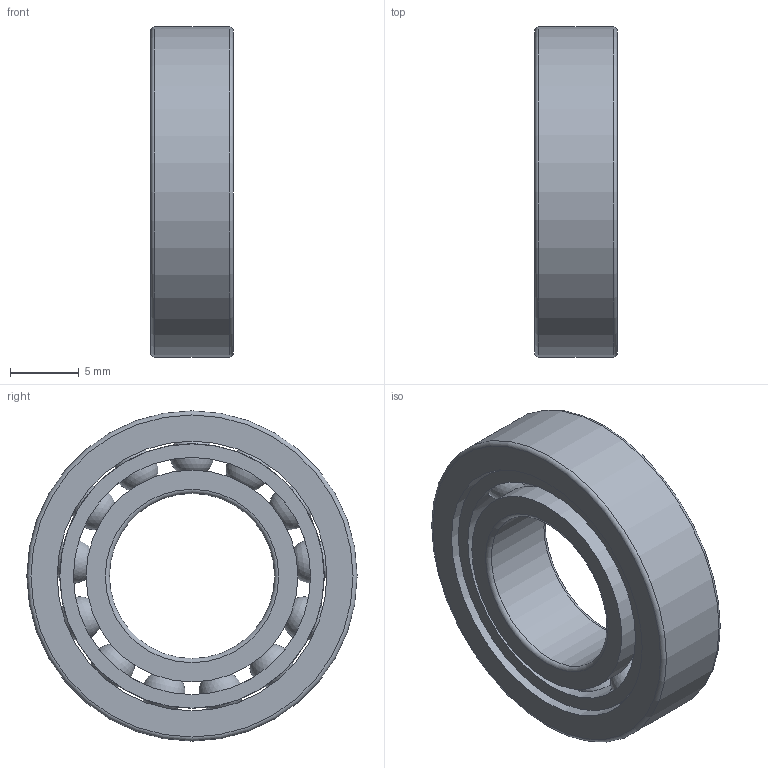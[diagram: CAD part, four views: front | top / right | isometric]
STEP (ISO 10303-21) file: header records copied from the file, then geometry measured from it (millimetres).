
FILE_DESCRIPTION(/* description */ (''),/* implementation_level */ '2;1');
FILE_NAME(/* name */ 'S_61901_TA.step',/* time_stamp */ '2013-03-06T14:46:44+01:00',/* author */ ('Marian'),/* organization */ ('GMN'),/* preprocessor_version */ 'ST-DEVELOPER v11',/* originating_system */ 'SIEMENS UGS NX 6.0',/* authorisation */ '');
FILE_SCHEMA (('CONFIG_CONTROL_DESIGN'));
Length unit declared in the file: millimetre
Products named in the file (1): S_61901_TA
Bounding box: 6 x 24 x 24 mm (x, y, z)
Volume: 1558.7 mm3; surface area: 2755.3 mm2
Topology: 16 solids, 16 shells, 46 faces, 112 edges, 72 vertices
Faces by surface type: cylinder 20, sphere 13, torus 6, plane 6, cone 1
Full cylindrical faces by diameter (mm): 3.375 x13, 12 x1, 15.4 x2, 17.235 x1, 19.2 x1, 19.6 x1, 24 x1
Entity records: 2500 total; most frequent: CARTESIAN_POINT 1634, DIRECTION 134, FACE_BOUND 105, EDGE_LOOP 92, ORIENTED_EDGE 92, AXIS2_PLACEMENT_3D 67, VERTEX_POINT 59, EDGE_CURVE 46
